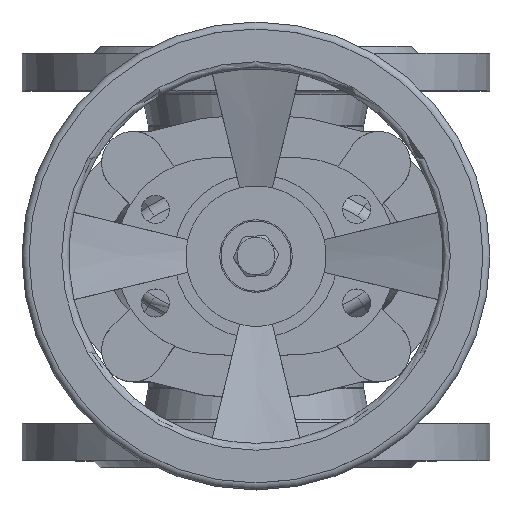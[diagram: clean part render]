
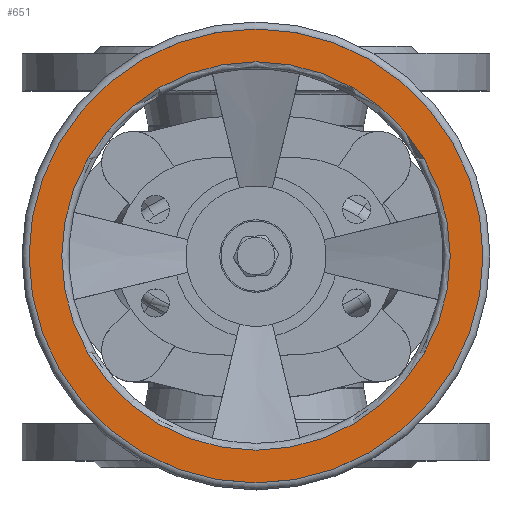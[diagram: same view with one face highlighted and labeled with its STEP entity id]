
A CAD part, top view. The second image highlights one B-rep face of the part: STEP entity #651.
In plain terms, the highlighted planar face has unit normal (0, 0, 1).
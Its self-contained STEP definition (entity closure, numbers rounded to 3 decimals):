
#651=ADVANCED_FACE('',(#2871,#2873),#2875,.T.);
#2871=FACE_BOUND('',#2872,.T.);
#2872=EDGE_LOOP('',(#4845));
#2873=FACE_BOUND('',#2874,.T.);
#2874=EDGE_LOOP('',(#4846));
#2875=PLANE('',#2876);
#2876=AXIS2_PLACEMENT_3D('',#2877,#2878,#2879);
#2877=CARTESIAN_POINT('',(0.,0.,294.));
#2878=DIRECTION('',(0.,0.,1.));
#2879=DIRECTION('',(0.,-1.,0.));
#4845=ORIENTED_EDGE('',*,*,#5959,.T.);
#4846=ORIENTED_EDGE('',*,*,#5921,.F.);
#5921=EDGE_CURVE('',#6642,#6642,#6643,.T.);
#5959=EDGE_CURVE('',#6703,#6703,#6704,.T.);
#6642=VERTEX_POINT('',#8425);
#6643=CIRCLE('',#8426,83.);
#6703=VERTEX_POINT('',#8582);
#6704=CIRCLE('',#8583,97.);
#8425=CARTESIAN_POINT('',(0.,-83.,294.));
#8426=AXIS2_PLACEMENT_3D('',#8427,#8428,#8429);
#8427=CARTESIAN_POINT('',(0.,0.,294.));
#8428=DIRECTION('',(0.,0.,1.));
#8429=DIRECTION('',(0.,-1.,0.));
#8582=CARTESIAN_POINT('',(0.,-97.,294.));
#8583=AXIS2_PLACEMENT_3D('',#8584,#8585,#8586);
#8584=CARTESIAN_POINT('',(0.,0.,294.));
#8585=DIRECTION('',(0.,0.,1.));
#8586=DIRECTION('',(0.,-1.,0.));
